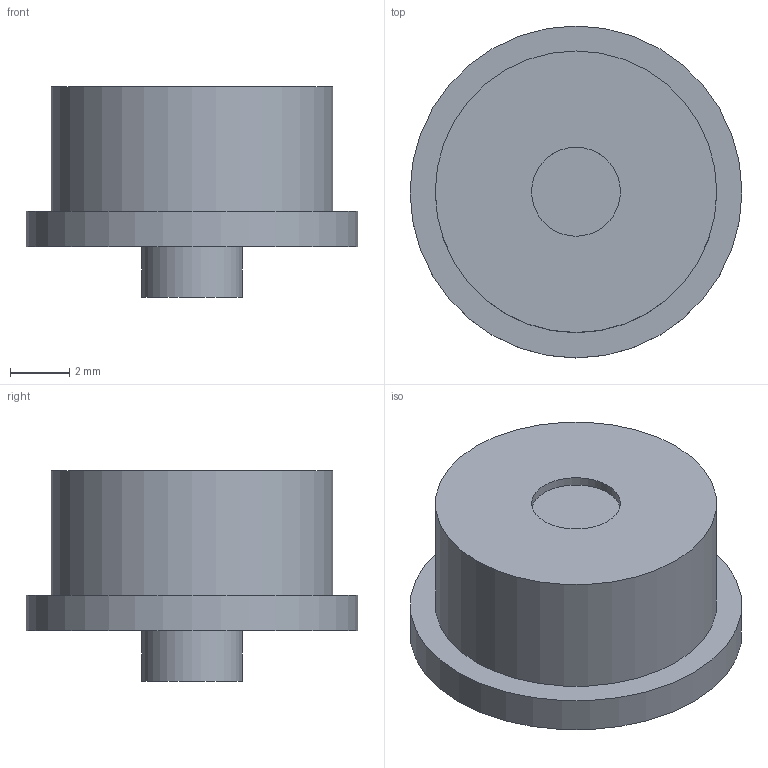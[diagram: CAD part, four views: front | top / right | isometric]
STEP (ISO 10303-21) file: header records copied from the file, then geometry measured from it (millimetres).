
FILE_DESCRIPTION(('Open CASCADE Model'),'2;1');
FILE_NAME('Open CASCADE Shape Model','2026-09-16T15:55:10',('Author'),( 'Open CASCADE'),'Open CASCADE STEP processor 7.9','Open CASCADE 7.9' ,'Unknown');
FILE_SCHEMA(('AUTOMOTIVE_DESIGN { 1 0 10303 214 1 1 1 1 }'));
Length unit declared in the file: millimetre
Products named in the file (1): Open CASCADE STEP translator 7.9 6
Bounding box: 11.2 x 11.2 x 7.1 mm (x, y, z)
Volume: 429.2 mm3; surface area: 385.6 mm2
Topology: 1 solids, 1 shells, 9 faces, 12 edges, 8 vertices
Faces by surface type: plane 5, cylinder 4
Full cylindrical faces by diameter (mm): 3 x1, 3.4 x1, 9.5 x1, 11.2 x1
Entity records: 363 total; most frequent: DIRECTION 63, CARTESIAN_POINT 60, ORIENTED_EDGE 24, PCURVE 24, DEFINITIONAL_REPRESENTATION 24, LINE 20, VECTOR 20, AXIS2_PLACEMENT_3D 18
